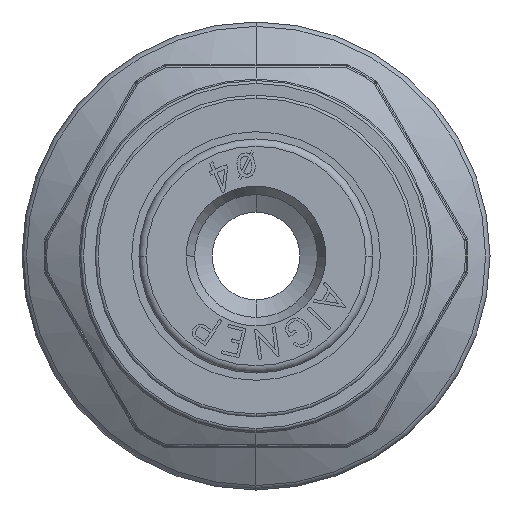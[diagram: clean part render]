
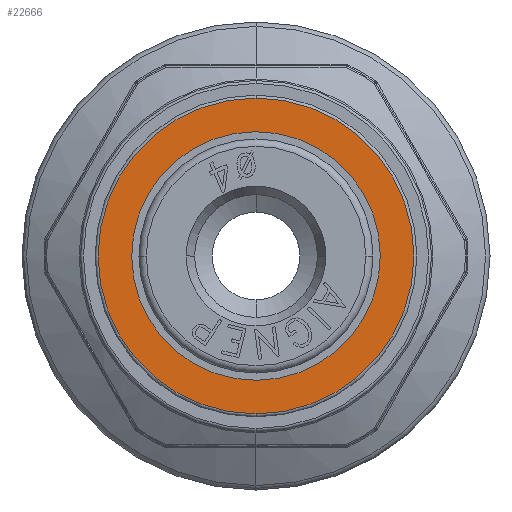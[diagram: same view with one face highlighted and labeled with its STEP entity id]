
A CAD part, front view. The second image highlights one B-rep face of the part: STEP entity #22666.
In plain terms, the highlighted planar face has unit normal (0, -1, 0).
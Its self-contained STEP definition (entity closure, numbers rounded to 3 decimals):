
#348 = VERTEX_POINT ( 'NONE', #32249 ) ;
#2406 = AXIS2_PLACEMENT_3D ( 'NONE', #5437, #17707, #15821 ) ;
#2546 = CARTESIAN_POINT ( 'NONE',  ( 0., 0., 0. ) ) ;
#2942 = CIRCLE ( 'NONE', #2406, 5.4 ) ;
#5035 = PLANE ( 'NONE',  #8258 ) ;
#5437 = CARTESIAN_POINT ( 'NONE',  ( 0., 0., 0. ) ) ;
#5555 = EDGE_LOOP ( 'NONE', ( #19236, #21342 ) ) ;
#5691 = DIRECTION ( 'NONE',  ( 0.346, 0., -0.938 ) ) ;
#5701 = EDGE_CURVE ( 'NONE', #348, #12806, #27935, .T. ) ;
#6233 = DIRECTION ( 'NONE',  ( 0., -1., 0. ) ) ;
#8110 = FACE_OUTER_BOUND ( 'NONE', #5555, .T. ) ;
#8258 = AXIS2_PLACEMENT_3D ( 'NONE', #18964, #6233, #8637 ) ;
#8459 = AXIS2_PLACEMENT_3D ( 'NONE', #31720, #26513, #5691 ) ;
#8637 = DIRECTION ( 'NONE',  ( 0., 0., -1. ) ) ;
#11481 = DIRECTION ( 'NONE',  ( 0., -1., 0. ) ) ;
#12231 = CIRCLE ( 'NONE', #8459, 4.25 ) ;
#12610 = EDGE_LOOP ( 'NONE', ( #20607, #24607 ) ) ;
#12806 = VERTEX_POINT ( 'NONE', #20387 ) ;
#13192 = FACE_BOUND ( 'NONE', #12610, .T. ) ;
#13554 = EDGE_CURVE ( 'NONE', #12806, #348, #2942, .T. ) ;
#13678 = CIRCLE ( 'NONE', #29870, 4.25 ) ;
#15143 = DIRECTION ( 'NONE',  ( 0.346, 0., -0.938 ) ) ;
#15821 = DIRECTION ( 'NONE',  ( 0., 0., -1. ) ) ;
#15853 = EDGE_CURVE ( 'NONE', #19004, #23994, #12231, .T. ) ;
#17707 = DIRECTION ( 'NONE',  ( 0., -1., 0. ) ) ;
#18964 = CARTESIAN_POINT ( 'NONE',  ( 5.4, 0., 0. ) ) ;
#19004 = VERTEX_POINT ( 'NONE', #21616 ) ;
#19236 = ORIENTED_EDGE ( 'NONE', *, *, #5701, .T. ) ;
#20387 = CARTESIAN_POINT ( 'NONE',  ( 0., 0., 5.4 ) ) ;
#20607 = ORIENTED_EDGE ( 'NONE', *, *, #15853, .T. ) ;
#21326 = CARTESIAN_POINT ( 'NONE',  ( 0., 0., 0. ) ) ;
#21342 = ORIENTED_EDGE ( 'NONE', *, *, #13554, .T. ) ;
#21616 = CARTESIAN_POINT ( 'NONE',  ( 1.47, 0., -3.988 ) ) ;
#21817 = DIRECTION ( 'NONE',  ( 0., 0., -1. ) ) ;
#22666 = ADVANCED_FACE ( 'NONE', ( #13192, #8110 ), #5035, .T. ) ;
#23994 = VERTEX_POINT ( 'NONE', #24667 ) ;
#24607 = ORIENTED_EDGE ( 'NONE', *, *, #30587, .T. ) ;
#24667 = CARTESIAN_POINT ( 'NONE',  ( -1.47, 0., 3.988 ) ) ;
#26513 = DIRECTION ( 'NONE',  ( 0., 1., 0. ) ) ;
#27935 = CIRCLE ( 'NONE', #31652, 5.4 ) ;
#29870 = AXIS2_PLACEMENT_3D ( 'NONE', #2546, #33154, #15143 ) ;
#30587 = EDGE_CURVE ( 'NONE', #23994, #19004, #13678, .T. ) ;
#31652 = AXIS2_PLACEMENT_3D ( 'NONE', #21326, #11481, #21817 ) ;
#31720 = CARTESIAN_POINT ( 'NONE',  ( 0., 0., 0. ) ) ;
#32249 = CARTESIAN_POINT ( 'NONE',  ( 0., 0., -5.4 ) ) ;
#33154 = DIRECTION ( 'NONE',  ( 0., 1., 0. ) ) ;
